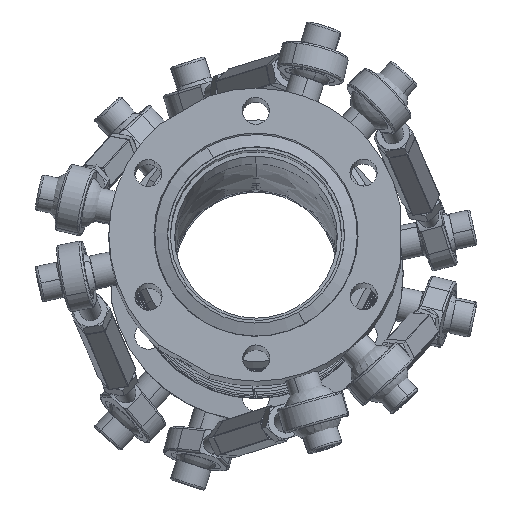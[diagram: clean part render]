
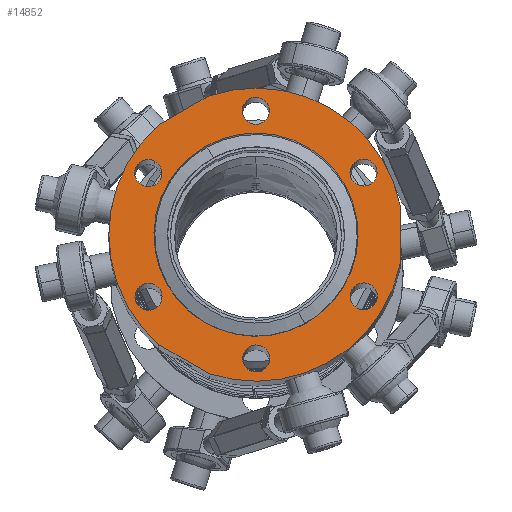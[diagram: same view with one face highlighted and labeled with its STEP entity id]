
A CAD part, top view. The second image highlights one B-rep face of the part: STEP entity #14852.
In plain terms, the highlighted planar face has unit normal (0, 0.087, 0.996).
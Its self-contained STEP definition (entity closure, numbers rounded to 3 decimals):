
#14675=AXIS2_PLACEMENT_3D('Plane Axis2P3D',#14672,#14673,#14674) ;
#14679=AXIS2_PLACEMENT_3D('Circle Axis2P3D',#14677,#14678,$) ;
#14695=AXIS2_PLACEMENT_3D('Circle Axis2P3D',#14693,#14694,$) ;
#14702=AXIS2_PLACEMENT_3D('Circle Axis2P3D',#14700,#14701,$) ;
#14707=AXIS2_PLACEMENT_3D('Circle Axis2P3D',#14705,#14706,$) ;
#14728=AXIS2_PLACEMENT_3D('Circle Axis2P3D',#14726,#14727,$) ;
#14737=AXIS2_PLACEMENT_3D('Circle Axis2P3D',#14735,#14736,$) ;
#14746=AXIS2_PLACEMENT_3D('Circle Axis2P3D',#14744,#14745,$) ;
#14755=AXIS2_PLACEMENT_3D('Circle Axis2P3D',#14753,#14754,$) ;
#14764=AXIS2_PLACEMENT_3D('Circle Axis2P3D',#14762,#14763,$) ;
#14773=AXIS2_PLACEMENT_3D('Circle Axis2P3D',#14771,#14772,$) ;
#14782=AXIS2_PLACEMENT_3D('Circle Axis2P3D',#14780,#14781,$) ;
#14791=AXIS2_PLACEMENT_3D('Circle Axis2P3D',#14789,#14790,$) ;
#14800=AXIS2_PLACEMENT_3D('Circle Axis2P3D',#14798,#14799,$) ;
#14809=AXIS2_PLACEMENT_3D('Circle Axis2P3D',#14807,#14808,$) ;
#14818=AXIS2_PLACEMENT_3D('Circle Axis2P3D',#14816,#14817,$) ;
#14827=AXIS2_PLACEMENT_3D('Circle Axis2P3D',#14825,#14826,$) ;
#14836=AXIS2_PLACEMENT_3D('Circle Axis2P3D',#14834,#14835,$) ;
#14845=AXIS2_PLACEMENT_3D('Circle Axis2P3D',#14843,#14844,$) ;
#14622=CARTESIAN_POINT('Vertex',(34.063,2.193,91.593)) ;
#14638=CARTESIAN_POINT('Vertex',(34.037,16.019,90.383)) ;
#14641=CARTESIAN_POINT('Line Origine',(34.05,9.106,90.988)) ;
#14672=CARTESIAN_POINT('Axis2P3D Location',(-0.066,43.659,87.965)) ;
#14677=CARTESIAN_POINT('Axis2P3D Location',(0.,9.041,90.993)) ;
#14681=CARTESIAN_POINT('Vertex',(-23.084,34.917,88.73)) ;
#14683=CARTESIAN_POINT('Vertex',(-22.985,-16.922,93.265)) ;
#14686=CARTESIAN_POINT('Line Origine',(-16.969,-20.367,93.566)) ;
#14690=CARTESIAN_POINT('Vertex',(-10.952,-23.812,93.868)) ;
#14693=CARTESIAN_POINT('Axis2P3D Location',(0.,9.041,90.993)) ;
#14697=CARTESIAN_POINT('Vertex',(16.718,-21.307,93.649)) ;
#14700=CARTESIAN_POINT('Axis2P3D Location',(0.,9.041,90.993)) ;
#14705=CARTESIAN_POINT('Axis2P3D Location',(0.,9.041,90.993)) ;
#14709=CARTESIAN_POINT('Vertex',(-11.078,41.853,88.123)) ;
#14712=CARTESIAN_POINT('Line Origine',(-17.081,38.385,88.426)) ;
#14726=CARTESIAN_POINT('Axis2P3D Location',(0.056,-20.197,93.551)) ;
#14730=CARTESIAN_POINT('Vertex',(-3.143,-20.278,93.559)) ;
#14732=CARTESIAN_POINT('Vertex',(3.255,-20.116,93.544)) ;
#14735=CARTESIAN_POINT('Axis2P3D Location',(0.056,-20.197,93.551)) ;
#14744=CARTESIAN_POINT('Axis2P3D Location',(-25.446,23.612,89.719)) ;
#14748=CARTESIAN_POINT('Vertex',(-26.975,20.812,89.964)) ;
#14750=CARTESIAN_POINT('Vertex',(-23.917,26.413,89.474)) ;
#14753=CARTESIAN_POINT('Axis2P3D Location',(-25.446,23.612,89.719)) ;
#14762=CARTESIAN_POINT('Axis2P3D Location',(0.,9.041,90.993)) ;
#14766=CARTESIAN_POINT('Vertex',(-11.594,30.089,89.152)) ;
#14768=CARTESIAN_POINT('Vertex',(11.594,-12.006,92.835)) ;
#14771=CARTESIAN_POINT('Axis2P3D Location',(0.,9.041,90.993)) ;
#14780=CARTESIAN_POINT('Axis2P3D Location',(-25.39,-5.626,92.277)) ;
#14784=CARTESIAN_POINT('Vertex',(-27.06,-2.907,92.039)) ;
#14786=CARTESIAN_POINT('Vertex',(-23.72,-8.345,92.515)) ;
#14789=CARTESIAN_POINT('Axis2P3D Location',(-25.39,-5.626,92.277)) ;
#14798=CARTESIAN_POINT('Axis2P3D Location',(25.446,-5.53,92.268)) ;
#14802=CARTESIAN_POINT('Vertex',(23.917,-8.33,92.513)) ;
#14804=CARTESIAN_POINT('Vertex',(26.975,-2.729,92.023)) ;
#14807=CARTESIAN_POINT('Axis2P3D Location',(25.446,-5.53,92.268)) ;
#14816=CARTESIAN_POINT('Axis2P3D Location',(25.39,23.709,89.71)) ;
#14820=CARTESIAN_POINT('Vertex',(27.06,20.99,89.948)) ;
#14822=CARTESIAN_POINT('Vertex',(23.72,26.428,89.472)) ;
#14825=CARTESIAN_POINT('Axis2P3D Location',(25.39,23.709,89.71)) ;
#14834=CARTESIAN_POINT('Axis2P3D Location',(-0.056,38.28,88.435)) ;
#14838=CARTESIAN_POINT('Vertex',(3.143,38.361,88.428)) ;
#14840=CARTESIAN_POINT('Vertex',(-3.255,38.198,88.443)) ;
#14843=CARTESIAN_POINT('Axis2P3D Location',(-0.056,38.28,88.435)) ;
#14642=DIRECTION('Vector Direction',(-0.002,0.996,-0.087)) ;
#14673=DIRECTION('Axis2P3D Direction',(0.,0.087,0.996)) ;
#14674=DIRECTION('Axis2P3D XDirection',(-0.002,0.996,-0.087)) ;
#14678=DIRECTION('Axis2P3D Direction',(0.,0.087,0.996)) ;
#14687=DIRECTION('Vector Direction',(0.867,-0.496,0.043)) ;
#14694=DIRECTION('Axis2P3D Direction',(0.,0.087,0.996)) ;
#14701=DIRECTION('Axis2P3D Direction',(0.,0.087,0.996)) ;
#14706=DIRECTION('Axis2P3D Direction',(0.,0.087,0.996)) ;
#14713=DIRECTION('Vector Direction',(-0.865,-0.5,0.044)) ;
#14727=DIRECTION('Axis2P3D Direction',(0.,0.087,0.996)) ;
#14736=DIRECTION('Axis2P3D Direction',(0.,0.087,0.996)) ;
#14745=DIRECTION('Axis2P3D Direction',(0.,0.087,0.996)) ;
#14754=DIRECTION('Axis2P3D Direction',(0.,0.087,0.996)) ;
#14763=DIRECTION('Axis2P3D Direction',(0.,0.087,0.996)) ;
#14772=DIRECTION('Axis2P3D Direction',(0.,0.087,0.996)) ;
#14781=DIRECTION('Axis2P3D Direction',(0.,0.087,0.996)) ;
#14790=DIRECTION('Axis2P3D Direction',(0.,0.087,0.996)) ;
#14799=DIRECTION('Axis2P3D Direction',(0.,0.087,0.996)) ;
#14808=DIRECTION('Axis2P3D Direction',(0.,0.087,0.996)) ;
#14817=DIRECTION('Axis2P3D Direction',(0.,0.087,0.996)) ;
#14826=DIRECTION('Axis2P3D Direction',(0.,0.087,0.996)) ;
#14835=DIRECTION('Axis2P3D Direction',(0.,0.087,0.996)) ;
#14844=DIRECTION('Axis2P3D Direction',(0.,0.087,0.996)) ;
#14643=VECTOR('Line Direction',#14642,1.) ;
#14688=VECTOR('Line Direction',#14687,1.) ;
#14714=VECTOR('Line Direction',#14713,1.) ;
#14718=ORIENTED_EDGE('',*,*,#14685,.T.) ;
#14719=ORIENTED_EDGE('',*,*,#14692,.F.) ;
#14720=ORIENTED_EDGE('',*,*,#14699,.T.) ;
#14721=ORIENTED_EDGE('',*,*,#14704,.T.) ;
#14722=ORIENTED_EDGE('',*,*,#14645,.F.) ;
#14723=ORIENTED_EDGE('',*,*,#14711,.T.) ;
#14724=ORIENTED_EDGE('',*,*,#14716,.F.) ;
#14741=ORIENTED_EDGE('',*,*,#14734,.F.) ;
#14742=ORIENTED_EDGE('',*,*,#14739,.F.) ;
#14759=ORIENTED_EDGE('',*,*,#14752,.F.) ;
#14760=ORIENTED_EDGE('',*,*,#14757,.F.) ;
#14777=ORIENTED_EDGE('',*,*,#14770,.F.) ;
#14778=ORIENTED_EDGE('',*,*,#14775,.F.) ;
#14795=ORIENTED_EDGE('',*,*,#14788,.F.) ;
#14796=ORIENTED_EDGE('',*,*,#14793,.F.) ;
#14813=ORIENTED_EDGE('',*,*,#14806,.F.) ;
#14814=ORIENTED_EDGE('',*,*,#14811,.F.) ;
#14831=ORIENTED_EDGE('',*,*,#14824,.F.) ;
#14832=ORIENTED_EDGE('',*,*,#14829,.F.) ;
#14849=ORIENTED_EDGE('',*,*,#14842,.F.) ;
#14850=ORIENTED_EDGE('',*,*,#14847,.F.) ;
#14743=FACE_BOUND('',#14740,.T.) ;
#14761=FACE_BOUND('',#14758,.T.) ;
#14779=FACE_BOUND('',#14776,.T.) ;
#14797=FACE_BOUND('',#14794,.T.) ;
#14815=FACE_BOUND('',#14812,.T.) ;
#14833=FACE_BOUND('',#14830,.T.) ;
#14851=FACE_BOUND('',#14848,.T.) ;
#14852=ADVANCED_FACE('Brep With Voids.1',(#14725,#14743,#14761,#14779,#14797,#14815,#14833,#14851),#14676,.T.) ;
#14680=CIRCLE('generated circle',#14679,34.75) ;
#14696=CIRCLE('generated circle',#14695,34.75) ;
#14703=CIRCLE('generated circle',#14702,34.75) ;
#14708=CIRCLE('generated circle',#14707,34.75) ;
#14729=CIRCLE('generated circle',#14728,3.2) ;
#14738=CIRCLE('generated circle',#14737,3.2) ;
#14747=CIRCLE('generated circle',#14746,3.2) ;
#14756=CIRCLE('generated circle',#14755,3.2) ;
#14765=CIRCLE('generated circle',#14764,24.1) ;
#14774=CIRCLE('generated circle',#14773,24.1) ;
#14783=CIRCLE('generated circle',#14782,3.2) ;
#14792=CIRCLE('generated circle',#14791,3.2) ;
#14801=CIRCLE('generated circle',#14800,3.2) ;
#14810=CIRCLE('generated circle',#14809,3.2) ;
#14819=CIRCLE('generated circle',#14818,3.2) ;
#14828=CIRCLE('generated circle',#14827,3.2) ;
#14837=CIRCLE('generated circle',#14836,3.2) ;
#14846=CIRCLE('generated circle',#14845,3.2) ;
#14645=EDGE_CURVE('',#14639,#14623,#14644,.F.) ;
#14685=EDGE_CURVE('',#14682,#14684,#14680,.T.) ;
#14692=EDGE_CURVE('',#14691,#14684,#14689,.F.) ;
#14699=EDGE_CURVE('',#14691,#14698,#14696,.T.) ;
#14704=EDGE_CURVE('',#14698,#14623,#14703,.T.) ;
#14711=EDGE_CURVE('',#14639,#14710,#14708,.T.) ;
#14716=EDGE_CURVE('',#14682,#14710,#14715,.F.) ;
#14734=EDGE_CURVE('',#14731,#14733,#14729,.T.) ;
#14739=EDGE_CURVE('',#14733,#14731,#14738,.T.) ;
#14752=EDGE_CURVE('',#14749,#14751,#14747,.T.) ;
#14757=EDGE_CURVE('',#14751,#14749,#14756,.T.) ;
#14770=EDGE_CURVE('',#14767,#14769,#14765,.T.) ;
#14775=EDGE_CURVE('',#14769,#14767,#14774,.T.) ;
#14788=EDGE_CURVE('',#14785,#14787,#14783,.T.) ;
#14793=EDGE_CURVE('',#14787,#14785,#14792,.T.) ;
#14806=EDGE_CURVE('',#14803,#14805,#14801,.T.) ;
#14811=EDGE_CURVE('',#14805,#14803,#14810,.T.) ;
#14824=EDGE_CURVE('',#14821,#14823,#14819,.T.) ;
#14829=EDGE_CURVE('',#14823,#14821,#14828,.T.) ;
#14842=EDGE_CURVE('',#14839,#14841,#14837,.T.) ;
#14847=EDGE_CURVE('',#14841,#14839,#14846,.T.) ;
#14717=EDGE_LOOP('',(#14718,#14719,#14720,#14721,#14722,#14723,#14724)) ;
#14740=EDGE_LOOP('',(#14741,#14742)) ;
#14758=EDGE_LOOP('',(#14759,#14760)) ;
#14776=EDGE_LOOP('',(#14777,#14778)) ;
#14794=EDGE_LOOP('',(#14795,#14796)) ;
#14812=EDGE_LOOP('',(#14813,#14814)) ;
#14830=EDGE_LOOP('',(#14831,#14832)) ;
#14848=EDGE_LOOP('',(#14849,#14850)) ;
#14725=FACE_OUTER_BOUND('',#14717,.T.) ;
#14644=LINE('Line',#14641,#14643) ;
#14689=LINE('Line',#14686,#14688) ;
#14715=LINE('Line',#14712,#14714) ;
#14676=PLANE('',#14675) ;
#14623=VERTEX_POINT('',#14622) ;
#14639=VERTEX_POINT('',#14638) ;
#14682=VERTEX_POINT('',#14681) ;
#14684=VERTEX_POINT('',#14683) ;
#14691=VERTEX_POINT('',#14690) ;
#14698=VERTEX_POINT('',#14697) ;
#14710=VERTEX_POINT('',#14709) ;
#14731=VERTEX_POINT('',#14730) ;
#14733=VERTEX_POINT('',#14732) ;
#14749=VERTEX_POINT('',#14748) ;
#14751=VERTEX_POINT('',#14750) ;
#14767=VERTEX_POINT('',#14766) ;
#14769=VERTEX_POINT('',#14768) ;
#14785=VERTEX_POINT('',#14784) ;
#14787=VERTEX_POINT('',#14786) ;
#14803=VERTEX_POINT('',#14802) ;
#14805=VERTEX_POINT('',#14804) ;
#14821=VERTEX_POINT('',#14820) ;
#14823=VERTEX_POINT('',#14822) ;
#14839=VERTEX_POINT('',#14838) ;
#14841=VERTEX_POINT('',#14840) ;
